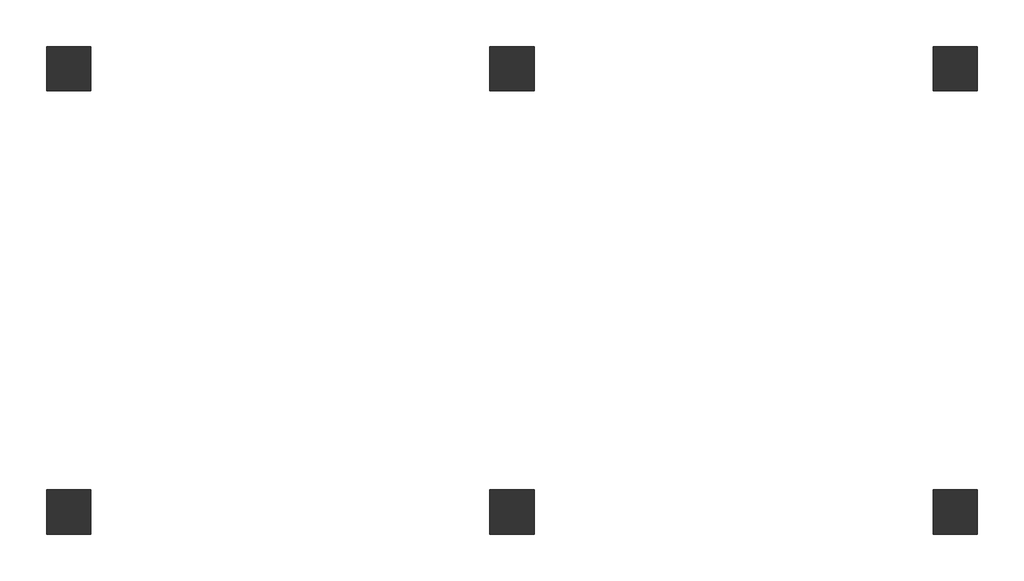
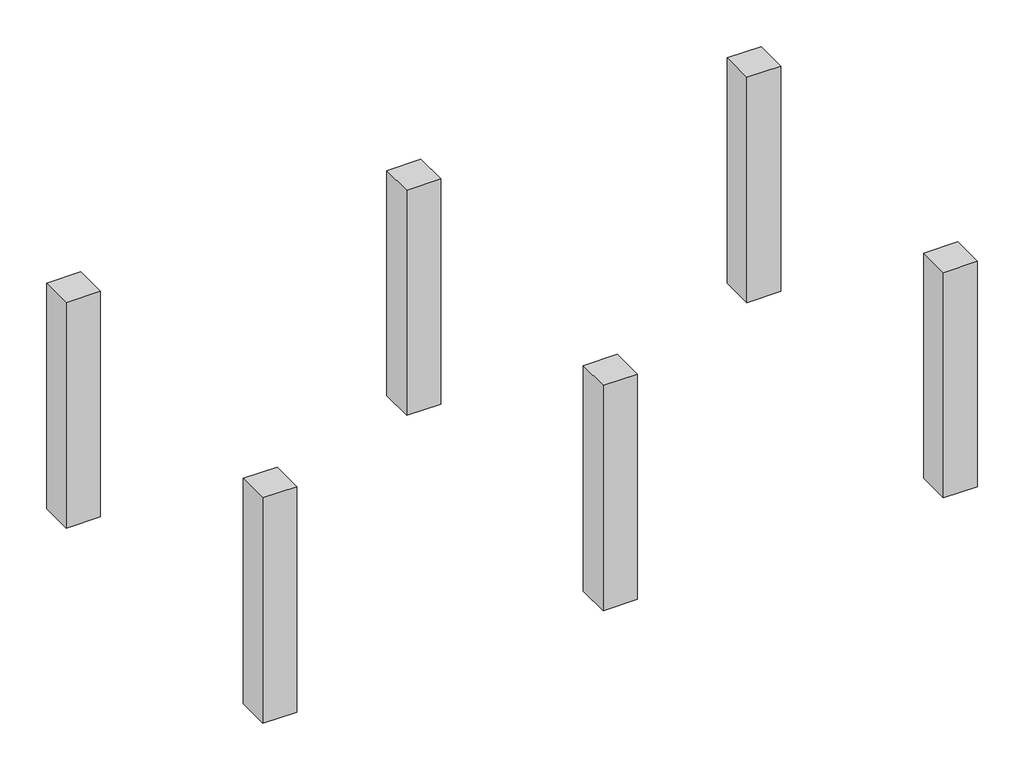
# One storey: 6 columns.
"""IFC4 building model written with IfcOpenShell, lengths in millimetres."""

from ifc_helpers import new_model, si_unit, origin, place, context, project, spatial, transform, mapped, element, save
from components import column_500x500_a29c4c3f

model = new_model("IFC4")

# Units and contexts
model_context = context("Model", 3, world=origin())
ifc_project = project(units=[si_unit("LENGTHUNIT", "METRE", prefix="MILLI")], contexts=[model_context])

# Site, building, storey
site = spatial("IfcSite", under=ifc_project)
building = spatial("IfcBuilding", under=site)
storey = spatial("IfcBuildingStorey", under=building, Name="レベル 1", Elevation=500.0)

# Columns
placement = place(None, origin())
column_500x500_shape = column_500x500_a29c4c3f(model_context)
element("IfcColumn", 1, ObjectType="RC柱-角 : 500x500", at=placement, inside=storey, context=model_context, shape_type="MappedRepresentation", body=[
    mapped(column_500x500_shape, transform((-5000.0, -2500.0, 0.0), x_axis=(-1.0, 0.0, 0.0), y_axis=(0.0, -1.0, 0.0), z_axis=(0.0, 0.0, 1.0))),
])
element("IfcColumn", 2, ObjectType="RC柱-角 : 500x500", at=placement, inside=storey, context=model_context, shape_type="MappedRepresentation", body=[
    mapped(column_500x500_shape, transform((-5000.0, 2500.0, 0.0), x_axis=(-1.0, 0.0, 0.0), y_axis=(0.0, -1.0, 0.0), z_axis=(0.0, 0.0, 1.0))),
])
element("IfcColumn", 3, ObjectType="RC柱-角 : 500x500", at=placement, inside=storey, context=model_context, shape_type="MappedRepresentation", body=[
    mapped(column_500x500_shape, transform((0.0, -2500.0, 0.0), x_axis=(-1.0, 0.0, 0.0), y_axis=(0.0, -1.0, 0.0), z_axis=(0.0, 0.0, 1.0))),
])
element("IfcColumn", 4, ObjectType="RC柱-角 : 500x500", at=placement, inside=storey, context=model_context, shape_type="MappedRepresentation", body=[
    mapped(column_500x500_shape, transform((0.0, 2500.0, 0.0), x_axis=(-1.0, 0.0, 0.0), y_axis=(0.0, -1.0, 0.0), z_axis=(0.0, 0.0, 1.0))),
])
element("IfcColumn", 5, ObjectType="RC柱-角 : 500x500", at=placement, inside=storey, context=model_context, shape_type="MappedRepresentation", body=[
    mapped(column_500x500_shape, transform((5000.0, -2500.0, 0.0), x_axis=(-1.0, 0.0, 0.0), y_axis=(0.0, -1.0, 0.0), z_axis=(0.0, 0.0, 1.0))),
])
element("IfcColumn", 6, ObjectType="RC柱-角 : 500x500", at=placement, inside=storey, context=model_context, shape_type="MappedRepresentation", body=[
    mapped(column_500x500_shape, transform((5000.0, 2500.0, 0.0), x_axis=(-1.0, 0.0, 0.0), y_axis=(0.0, -1.0, 0.0), z_axis=(0.0, 0.0, 1.0))),
])

save(model, "model.ifc")
